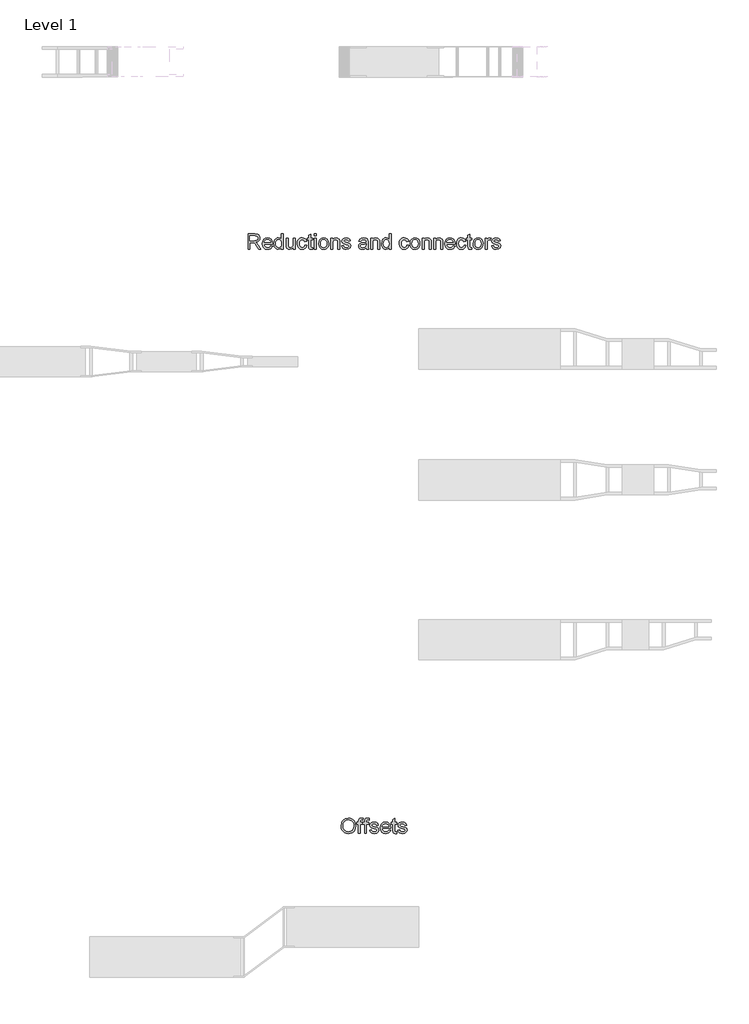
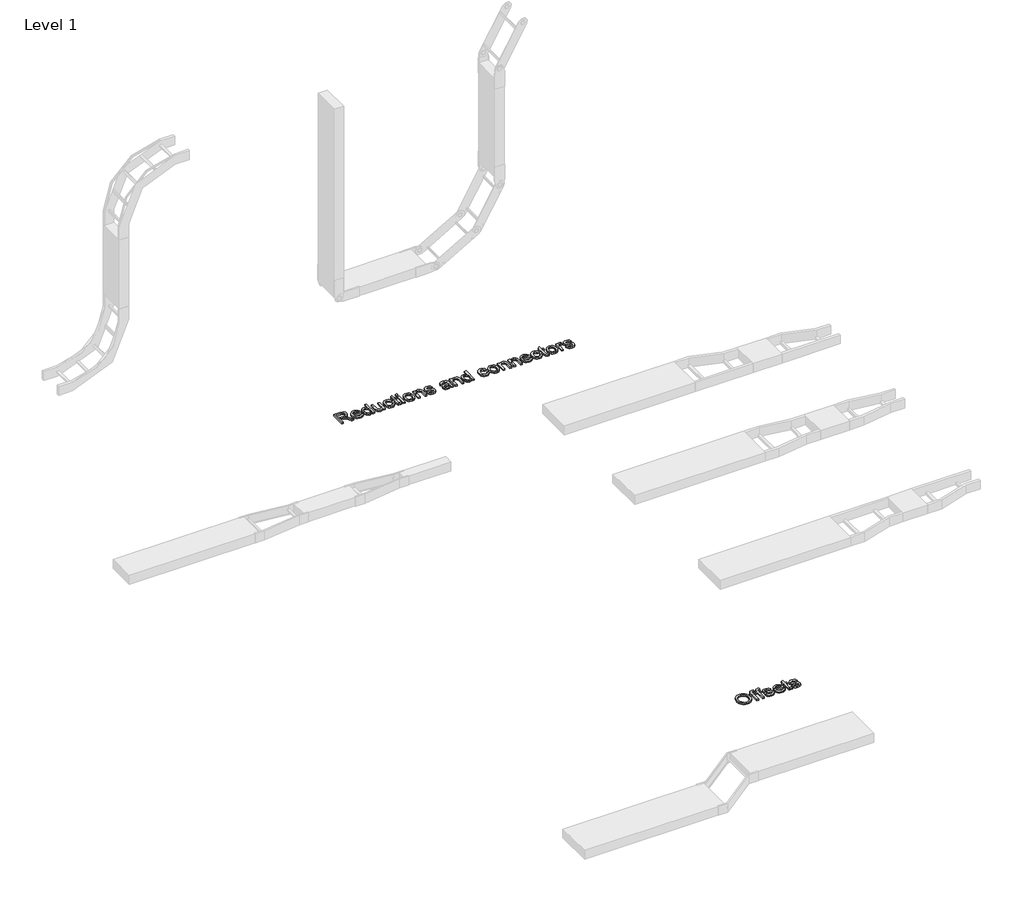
# One storey, part 71 of 106: 2 proxies.
"""IFC4 building model written with IfcOpenShell, lengths in millimetres."""

from ifc_helpers import new_model, si_unit, origin, origin_with_axes, place, context, project, spatial, polyline, outline, extrude, element, save

model = new_model("IFC4")

# Units and contexts
model_context = context("Model", 3, world=origin())
ifc_project = project(units=[si_unit("LENGTHUNIT", "METRE", prefix="MILLI")], contexts=[model_context])

# Site, building, storey
site = spatial("IfcSite", under=ifc_project)
building = spatial("IfcBuilding", under=site)
storey = spatial("IfcBuildingStorey", under=building, Name="Level 1", Elevation=0.0)

# Proxies
placement = place(None, origin())
element("IfcBuildingElementProxy", 1, Name="150mm Arial 2", ObjectType="150mm Arial 2", at=placement, inside=storey, context=model_context, shape_type="SweptSolid", body=[
    extrude(outline(polyline([(91968.5420892, 54347.8476348), (91968.5420892, 54498.5321), (92033.4732613, 54498.5321), (92063.6211908, 54494.467004), (92072.9010141, 54488.8384094), (92080.1023042, 54480.0828179), (92084.7238218, 54469.2257006), (92086.2643276, 54457.2925283), (92083.7121463, 54442.4484898), (92076.0556023, 54430.1428371), (92063.0647693, 54421.1205312), (92044.5097212, 54416.1265331), (92055.2150872, 54408.0699174), (92070.48219, 54388.6825362), (92095.6085303, 54347.8476348), (92073.7195516, 54347.8476348), (92054.1114412, 54379.0808162), (92039.9479844, 54399.7557843), (92029.9967765, 54409.5230513), (92021.0388499, 54413.1099007), (92010.1127546, 54413.7720883), (91987.3776473, 54413.7720883), (91987.3776473, 54347.8476348), (91968.5420892, 54347.8476348)]), holes=[polyline([(91987.3776473, 54432.6076465), (92029.536924, 54432.6076465), (92051.0396266, 54435.2747909), (92063.2533088, 54443.8096532), (92067.4287695, 54456.5935526), (92065.4376082, 54465.7814054), (92059.4641243, 54473.1850305), (92049.186421, 54478.068664), (92034.2826017, 54479.6965419), (91987.3776473, 54479.6965419), (91987.3776473, 54432.6076465)])]), origin_with_axes(), (0.0, 0.0, 1.0), 15.0),
    extrude(outline(polyline([(92194.3480578, 54380.8098615), (92212.815734, 54378.4554168), (92206.1616684, 54364.5402803), (92195.5436743, 54354.1384169), (92181.200875, 54347.6544967), (92163.3723938, 54345.49319), (92141.2718829, 54349.2225937), (92124.2665377, 54360.4108049), (92113.4232159, 54378.3312566), (92109.8087753, 54402.2573819), (92113.4600041, 54426.988249), (92124.4136905, 54445.4835163), (92141.1891095, 54457.0166168), (92162.305536, 54460.8609837), (92182.7643735, 54457.0258139), (92199.1121296, 54445.5203045), (92209.8312913, 54427.0618254), (92213.4043452, 54402.3677465), (92213.2939806, 54397.2909749), (92128.6443335, 54397.2909749), (92131.9046876, 54383.1918975), (92139.4784582, 54372.8268223), (92150.409152, 54366.4532667), (92163.7402758, 54364.3287482), (92182.207952, 54368.2650855), (92194.3480578, 54380.8098615)]), holes=[polyline([(92128.6443335, 54416.1265331), (92194.568787, 54416.1265331), (92192.0212042, 54426.0777411), (92187.0272061, 54433.1962577), (92176.0459285, 54439.8181336), (92162.2319596, 54442.0254255), (92149.5354323, 54440.2641905), (92139.0369998, 54434.9804853), (92131.7391407, 54426.7445272), (92128.6443335, 54416.1265331)])]), origin_with_axes(), (0.0, 0.0, 1.0), 15.0),
    extrude(outline(polyline([(92300.5188016, 54347.8476348), (92300.5188016, 54365.6163351), (92288.056799, 54350.5239763), (92270.8307246, 54345.49319), (92258.6538306, 54347.3142059), (92247.5070061, 54352.7772535), (92238.0708329, 54361.5006553), (92231.0258927, 54373.1027337), (92226.6388999, 54387.1144392), (92225.176569, 54403.0667223), (92230.5660402, 54433.0491049), (92237.2982807, 54444.9408904), (92246.7160598, 54453.6872848), (92258.1066061, 54459.067559), (92270.7571482, 54460.8609837), (92288.1211784, 54455.7290299), (92300.5188016, 54442.3933075), (92300.5188016, 54498.5321), (92319.3543598, 54498.5321), (92319.3543598, 54347.8476348), (92300.5188016, 54347.8476348)]), holes=[polyline([(92244.0121271, 54403.1402987), (92246.1366457, 54386.1027638), (92252.5102012, 54373.9856505), (92261.7716305, 54366.7429738), (92272.55977, 54364.3287482), (92283.343311, 54366.6326092), (92292.3702154, 54373.5441921), (92298.4816551, 54385.1922558), (92300.5188016, 54401.7055589), (92298.4448669, 54419.7593678), (92292.2230626, 54432.2765527), (92282.9662319, 54439.5882073), (92271.7872178, 54442.0254255), (92260.8887137, 54439.6847764), (92251.9583782, 54432.6628288), (92245.9986899, 54420.6008979), (92244.0121271, 54403.1402987)])]), origin_with_axes(), (0.0, 0.0, 1.0), 15.0),
    extrude(outline(polyline([(92418.2410401, 54347.8476348), (92418.2410401, 54366.8671339), (92403.4889721, 54350.836676), (92384.2487437, 54345.49319), (92366.5352256, 54349.2455864), (92354.3215434, 54358.6633654), (92348.711343, 54372.5325167), (92347.607697, 54390.0436996), (92347.607697, 54458.5065389), (92366.4432551, 54458.5065389), (92366.4432551, 54398.9096557), (92367.5836893, 54379.7062156), (92375.0332997, 54368.4306324), (92389.0679978, 54364.3287482), (92404.7949531, 54368.5226029), (92415.1876195, 54379.9453389), (92418.2410401, 54400.9330067), (92418.2410401, 54458.5065389), (92437.0765982, 54458.5065389), (92437.0765982, 54347.8476348), (92418.2410401, 54347.8476348)])), origin_with_axes(), (0.0, 0.0, 1.0), 15.0),
    extrude(outline(polyline([(92533.6088338, 54387.8731959), (92552.4443919, 54385.5187511), (92547.1928764, 54368.7663247), (92537.3244419, 54356.1065856), (92523.7679904, 54348.1465389), (92507.4524239, 54345.49319), (92487.4166507, 54349.1950026), (92471.7494763, 54360.3004403), (92461.6373199, 54378.3220596), (92458.2666011, 54402.7724167), (92459.7059394, 54419.5340401), (92464.0239544, 54434.0607803), (92471.2896238, 54445.7916175), (92481.5719255, 54454.1655314), (92493.8729797, 54459.1871206), (92507.1949065, 54460.8609837), (92523.1104013, 54458.5617212), (92535.8345198, 54451.6639338), (92544.9625918, 54440.5355035), (92550.0899471, 54425.5443122), (92531.254389, 54423.1898674), (92522.5171916, 54437.2981419), (92507.3420593, 54442.0254255), (92495.1697638, 54439.6985719), (92485.5082629, 54432.7180111), (92479.2036852, 54420.7066639), (92477.1021593, 54403.2874515), (92479.1576999, 54385.6337142), (92485.3243219, 54373.5809803), (92494.8110788, 54366.6418062), (92506.8270245, 54364.3287482), (92516.5804959, 54365.772685), (92524.5773308, 54370.1044955), (92530.3944648, 54377.4345442), (92533.6088338, 54387.8731959)])), origin_with_axes(), (0.0, 0.0, 1.0), 15.0),
    extrude(outline(polyline([(92608.9510664, 54363.556196), (92611.3055111, 54347.2958118), (92597.2156307, 54345.49319), (92581.4334931, 54348.620187), (92573.5608184, 54356.8239555), (92571.2799501, 54378.1978994), (92571.2799501, 54439.6709808), (92557.1532814, 54439.6709808), (92557.1532814, 54458.5065389), (92571.2799501, 54458.5065389), (92571.2799501, 54485.3987128), (92590.1155082, 54496.4719608), (92590.1155082, 54458.5065389), (92608.9510664, 54458.5065389), (92608.9510664, 54439.6709808), (92590.1155082, 54439.6709808), (92590.1155082, 54378.7497224), (92591.1087896, 54369.0376377), (92594.3277571, 54365.597941), (92600.7472979, 54364.3287482), (92608.9510664, 54363.556196)])), origin_with_axes(), (0.0, 0.0, 1.0), 15.0),
    extrude(outline(polyline([(92627.7866245, 54479.6965419), (92627.7866245, 54498.5321), (92646.6221827, 54498.5321), (92646.6221827, 54479.6965419), (92627.7866245, 54479.6965419)])), origin_with_axes(), (0.0, 0.0, 1.0), 15.0),
    extrude(outline(polyline([(92627.7866245, 54347.8476348), (92627.7866245, 54458.5065389), (92646.6221827, 54458.5065389), (92646.6221827, 54347.8476348), (92627.7866245, 54347.8476348)])), origin_with_axes(), (0.0, 0.0, 1.0), 15.0),
    extrude(outline(polyline([(92670.1666304, 54403.1770869), (92674.2409235, 54429.8577286), (92686.4638027, 54448.6105133), (92701.5653587, 54457.7983661), (92719.6467587, 54460.8609837), (92739.4342115, 54457.13158), (92755.2393417, 54445.9433688), (92765.5998184, 54428.179267), (92769.0533107, 54404.7221912), (92767.5266004, 54385.693495), (92762.9464695, 54371.2081415), (92755.4462754, 54360.3602211), (92745.1593751, 54352.2438246), (92732.9410943, 54347.1808487), (92719.6467587, 54345.49319), (92699.6201826, 54349.2087982), (92683.8334465, 54360.3556226), (92673.5833344, 54378.492205), (92670.1666304, 54403.1770869)]), holes=[polyline([(92689.0021885, 54403.2138751), (92691.1818893, 54386.1671431), (92697.7209918, 54374.0224387), (92707.5618352, 54366.7521708), (92719.6467587, 54364.3287482), (92731.6765, 54366.7659664), (92741.4989492, 54374.077621), (92748.0380517, 54386.3832738), (92750.2177525, 54403.8024862), (92748.0242561, 54420.3525775), (92741.4437669, 54432.331735), (92731.6075221, 54439.6020029), (92719.6467587, 54442.0254255), (92707.5618352, 54439.6112), (92697.7209918, 54432.3685232), (92691.1818893, 54420.25141), (92689.0021885, 54403.2138751)])]), origin_with_axes(), (0.0, 0.0, 1.0), 15.0),
    extrude(outline(polyline([(92790.2433136, 54347.8476348), (92790.2433136, 54458.5065389), (92809.0788717, 54458.5065389), (92809.0788717, 54443.0554951), (92823.4814519, 54456.4096116), (92843.1447445, 54460.8609837), (92860.931839, 54457.2741342), (92873.0719448, 54447.8563552), (92878.7189334, 54434.0055981), (92879.7122148, 54415.7954393), (92879.7122148, 54347.8476348), (92860.8766567, 54347.8476348), (92860.8766567, 54413.2570535), (92858.7061529, 54429.9221079), (92851.0358133, 54438.7328817), (92838.1047612, 54442.0254255), (92827.0728998, 54440.1768185), (92817.6689163, 54434.6309974), (92811.2263829, 54423.9164343), (92809.0788717, 54406.5616012), (92809.0788717, 54347.8476348), (92790.2433136, 54347.8476348)])), origin_with_axes(), (0.0, 0.0, 1.0), 15.0),
    extrude(outline(polyline([(92898.547773, 54380.8098615), (92917.3833311, 54383.1643063), (92920.3539782, 54375.1076906), (92926.1021344, 54369.1847905), (92946.0781267, 54364.3287482), (92965.2815669, 54368.7801203), (92971.5355608, 54379.227969), (92969.9628653, 54384.028829), (92965.2447787, 54387.6892549), (92945.8573975, 54393.060332), (92917.4936957, 54402.275776), (92905.1144666, 54413.0363243), (92900.9022177, 54428.2298507), (92904.2867321, 54442.2645488), (92913.5205702, 54452.988309), (92925.4951291, 54458.5617212), (92941.700331, 54460.8609837), (92964.6193793, 54457.1637696), (92979.1875063, 54447.1573794), (92985.6622294, 54430.2532017), (92966.8266713, 54427.8987569), (92959.7449429, 54438.2914233), (92943.171859, 54442.0254255), (92925.1456412, 54438.4569702), (92919.7377759, 54430.1428371), (92921.9818561, 54424.6613954), (92929.0084022, 54420.5043288), (92945.2319982, 54416.4944151), (92972.8783301, 54407.628459), (92985.7174117, 54397.5852805), (92990.371119, 54381.2145317), (92984.9080713, 54363.188314), (92969.1443278, 54350.1101091), (92945.8206093, 54345.49319), (92926.8287013, 54347.7188761), (92912.9687472, 54354.3959343), (92903.716515, 54365.4507882), (92898.547773, 54380.8098615)])), origin_with_axes(), (0.0, 0.0, 1.0), 15.0),
    extrude(outline(polyline([(93141.0555842, 54361.9743034), (93122.7902431, 54349.2087982), (93102.6119157, 54345.49319), (93086.8711648, 54347.7280731), (93075.2598894, 54354.4327225), (93068.099986, 54364.6138567), (93065.7133516, 54377.2781944), (93069.3185951, 54392.1774152), (93078.7915565, 54402.9931459), (93091.980126, 54409.1735634), (93108.2772984, 54412.0062547), (93140.9452196, 54418.4809779), (93141.0555842, 54422.6748326), (93139.7588002, 54431.0809362), (93135.8684481, 54436.580772), (93127.1680389, 54440.6642622), (93115.0463271, 54442.0254255), (93095.9900398, 54438.4017879), (93086.9033545, 54425.5443122), (93068.0677963, 54427.8987569), (93076.2163825, 54446.2928567), (93092.6239195, 54457.0717991), (93117.4743483, 54460.8609837), (93140.3014261, 54457.5132575), (93153.19569, 54449.107154), (93158.9714374, 54436.3232546), (93159.8911423, 54419.8421412), (93159.8911423, 54396.4080581), (93160.8476355, 54363.6849547), (93164.6000319, 54347.8476348), (93145.7644737, 54347.8476348), (93141.0555842, 54361.9743034)]), holes=[polyline([(93141.0555842, 54399.6454197), (93110.6685314, 54393.8696724), (93094.4633295, 54390.8162518), (93087.1240837, 54385.8498449), (93084.5489097, 54378.6025696), (93090.1591102, 54368.4122383), (93106.6218294, 54364.3287482), (93125.6781168, 54368.8353026), (93137.9653754, 54379.7430038), (93140.9452196, 54394.3111308), (93141.0555842, 54399.6454197)])]), origin_with_axes(), (0.0, 0.0, 1.0), 15.0),
    extrude(outline(polyline([(93185.7900348, 54347.8476348), (93185.7900348, 54458.5065389), (93204.625593, 54458.5065389), (93204.625593, 54443.0554951), (93219.0281731, 54456.4096116), (93238.6914657, 54460.8609837), (93256.4785602, 54457.2741342), (93268.618666, 54447.8563552), (93274.2656546, 54434.0055981), (93275.258936, 54415.7954393), (93275.258936, 54347.8476348), (93256.4233779, 54347.8476348), (93256.4233779, 54413.2570535), (93254.2528741, 54429.9221079), (93246.5825345, 54438.7328817), (93233.6514824, 54442.0254255), (93222.619621, 54440.1768185), (93213.2156375, 54434.6309974), (93206.7731041, 54423.9164343), (93204.625593, 54406.5616012), (93204.625593, 54347.8476348), (93185.7900348, 54347.8476348)])), origin_with_axes(), (0.0, 0.0, 1.0), 15.0),
    extrude(outline(polyline([(93369.4367268, 54347.8476348), (93369.4367268, 54365.6163351), (93356.9747242, 54350.5239763), (93339.7486498, 54345.49319), (93327.5717557, 54347.3142059), (93316.4249313, 54352.7772535), (93306.9887581, 54361.5006553), (93299.9438179, 54373.1027337), (93295.5568251, 54387.1144392), (93294.0944942, 54403.0667223), (93299.4839654, 54433.0491049), (93306.2162059, 54444.9408904), (93315.633985, 54453.6872848), (93327.0245313, 54459.067559), (93339.6750734, 54460.8609837), (93357.0391036, 54455.7290299), (93369.4367268, 54442.3933075), (93369.4367268, 54498.5321), (93388.2722849, 54498.5321), (93388.2722849, 54347.8476348), (93369.4367268, 54347.8476348)]), holes=[polyline([(93312.9300523, 54403.1402987), (93315.0545709, 54386.1027638), (93321.4281264, 54373.9856505), (93330.6895557, 54366.7429738), (93341.4776952, 54364.3287482), (93352.2612361, 54366.6326092), (93361.2881406, 54373.5441921), (93367.3995802, 54385.1922558), (93369.4367268, 54401.7055589), (93367.362792, 54419.7593678), (93361.1409878, 54432.2765527), (93351.8841571, 54439.5882073), (93340.705143, 54442.0254255), (93329.8066389, 54439.6847764), (93320.8763034, 54432.6628288), (93314.9166151, 54420.6008979), (93312.9300523, 54403.1402987)])]), origin_with_axes(), (0.0, 0.0, 1.0), 15.0),
    extrude(outline(polyline([(93546.0200845, 54387.8731959), (93564.8556426, 54385.5187511), (93559.6041272, 54368.7663247), (93549.7356926, 54356.1065856), (93536.1792411, 54348.1465389), (93519.8636746, 54345.49319), (93499.8279015, 54349.1950026), (93484.160727, 54360.3004403), (93474.0485706, 54378.3220596), (93470.6778519, 54402.7724167), (93472.1171902, 54419.5340401), (93476.4352051, 54434.0607803), (93483.7008745, 54445.7916175), (93493.9831763, 54454.1655314), (93506.2842305, 54459.1871206), (93519.6061572, 54460.8609837), (93535.521652, 54458.5617212), (93548.2457706, 54451.6639338), (93557.3738426, 54440.5355035), (93562.5011979, 54425.5443122), (93543.6656397, 54423.1898674), (93534.9284423, 54437.2981419), (93519.75331, 54442.0254255), (93507.5810145, 54439.6985719), (93497.9195136, 54432.7180111), (93491.6149359, 54420.7066639), (93489.51341, 54403.2874515), (93491.5689507, 54385.6337142), (93497.7355726, 54373.5809803), (93507.2223296, 54366.6418062), (93519.2382752, 54364.3287482), (93528.9917466, 54365.772685), (93536.9885815, 54370.1044955), (93542.8057155, 54377.4345442), (93546.0200845, 54387.8731959)])), origin_with_axes(), (0.0, 0.0, 1.0), 15.0),
    extrude(outline(polyline([(93576.6278665, 54403.1770869), (93580.7021596, 54429.8577286), (93592.9250389, 54448.6105133), (93608.0265948, 54457.7983661), (93626.1079948, 54460.8609837), (93645.8954476, 54457.13158), (93661.7005779, 54445.9433688), (93672.0610546, 54428.179267), (93675.5145468, 54404.7221912), (93673.9878365, 54385.693495), (93669.4077057, 54371.2081415), (93661.9075115, 54360.3602211), (93651.6206112, 54352.2438246), (93639.4023304, 54347.1808487), (93626.1079948, 54345.49319), (93606.0814187, 54349.2087982), (93590.2946826, 54360.3556226), (93580.0445705, 54378.492205), (93576.6278665, 54403.1770869)]), holes=[polyline([(93595.4634246, 54403.2138751), (93597.6431255, 54386.1671431), (93604.1822279, 54374.0224387), (93614.0230713, 54366.7521708), (93626.1079948, 54364.3287482), (93638.1377361, 54366.7659664), (93647.9601853, 54374.077621), (93654.4992878, 54386.3832738), (93656.6789886, 54403.8024862), (93654.4854922, 54420.3525775), (93647.905003, 54432.331735), (93638.0687582, 54439.6020029), (93626.1079948, 54442.0254255), (93614.0230713, 54439.6112), (93604.1822279, 54432.3685232), (93597.6431255, 54420.25141), (93595.4634246, 54403.2138751)])]), origin_with_axes(), (0.0, 0.0, 1.0), 15.0),
    extrude(outline(polyline([(93696.7045497, 54347.8476348), (93696.7045497, 54458.5065389), (93715.5401079, 54458.5065389), (93715.5401079, 54443.0554951), (93729.942688, 54456.4096116), (93749.6059806, 54460.8609837), (93767.3930751, 54457.2741342), (93779.5331809, 54447.8563552), (93785.1801695, 54434.0055981), (93786.1734509, 54415.7954393), (93786.1734509, 54347.8476348), (93767.3378928, 54347.8476348), (93767.3378928, 54413.2570535), (93765.167389, 54429.9221079), (93757.4970494, 54438.7328817), (93744.5659973, 54442.0254255), (93733.5341359, 54440.1768185), (93724.1301524, 54434.6309974), (93717.687619, 54423.9164343), (93715.5401079, 54406.5616012), (93715.5401079, 54347.8476348), (93696.7045497, 54347.8476348)])), origin_with_axes(), (0.0, 0.0, 1.0), 15.0),
    extrude(outline(polyline([(93812.0723434, 54347.8476348), (93812.0723434, 54458.5065389), (93830.9079015, 54458.5065389), (93830.9079015, 54443.0554951), (93845.3104817, 54456.4096116), (93864.9737743, 54460.8609837), (93882.7608688, 54457.2741342), (93894.9009746, 54447.8563552), (93900.5479632, 54434.0055981), (93901.5412446, 54415.7954393), (93901.5412446, 54347.8476348), (93882.7056865, 54347.8476348), (93882.7056865, 54413.2570535), (93880.5351827, 54429.9221079), (93872.8648431, 54438.7328817), (93859.933791, 54442.0254255), (93848.9019296, 54440.1768185), (93839.4979461, 54434.6309974), (93833.0554127, 54423.9164343), (93830.9079015, 54406.5616012), (93830.9079015, 54347.8476348), (93812.0723434, 54347.8476348)])), origin_with_axes(), (0.0, 0.0, 1.0), 15.0),
    extrude(outline(polyline([(94004.9160853, 54380.8098615), (94023.3837614, 54378.4554168), (94016.7296958, 54364.5402803), (94006.1117017, 54354.1384169), (93991.7689025, 54347.6544967), (93973.9404213, 54345.49319), (93951.8399104, 54349.2225937), (93934.8345652, 54360.4108049), (93923.9912434, 54378.3312566), (93920.3768028, 54402.2573819), (93924.0280316, 54426.988249), (93934.981718, 54445.4835163), (93951.757137, 54457.0166168), (93972.8735635, 54460.8609837), (93993.3324009, 54457.0258139), (94009.6801571, 54445.5203045), (94020.3993187, 54427.0618254), (94023.9723726, 54402.3677465), (94023.862008, 54397.2909749), (93939.2123609, 54397.2909749), (93942.4727151, 54383.1918975), (93950.0464857, 54372.8268223), (93960.9771795, 54366.4532667), (93974.3083033, 54364.3287482), (93992.7759794, 54368.2650855), (94004.9160853, 54380.8098615)]), holes=[polyline([(93939.2123609, 54416.1265331), (94005.1368145, 54416.1265331), (94002.5892316, 54426.0777411), (93997.5952336, 54433.1962577), (93986.613956, 54439.8181336), (93972.7999871, 54442.0254255), (93960.1034597, 54440.2641905), (93949.6050273, 54434.9804853), (93942.3071682, 54426.7445272), (93939.2123609, 54416.1265331)])]), origin_with_axes(), (0.0, 0.0, 1.0), 15.0),
    extrude(outline(polyline([(94113.4412738, 54387.8731959), (94132.276832, 54385.5187511), (94127.0253165, 54368.7663247), (94117.156882, 54356.1065856), (94103.6004305, 54348.1465389), (94087.284864, 54345.49319), (94067.2490908, 54349.1950026), (94051.5819164, 54360.3004403), (94041.46976, 54378.3220596), (94038.0990412, 54402.7724167), (94039.5383795, 54419.5340401), (94043.8563945, 54434.0607803), (94051.1220639, 54445.7916175), (94061.4043656, 54454.1655314), (94073.7054198, 54459.1871206), (94087.0273466, 54460.8609837), (94102.9428414, 54458.5617212), (94115.6669599, 54451.6639338), (94124.7950319, 54440.5355035), (94129.9223872, 54425.5443122), (94111.0868291, 54423.1898674), (94102.3496317, 54437.2981419), (94087.1744994, 54442.0254255), (94075.0022039, 54439.6985719), (94065.340703, 54432.7180111), (94059.0361253, 54420.7066639), (94056.9345994, 54403.2874515), (94058.99014, 54385.6337142), (94065.156762, 54373.5809803), (94074.6435189, 54366.6418062), (94086.6594646, 54364.3287482), (94096.412936, 54365.772685), (94104.4097709, 54370.1044955), (94110.2269049, 54377.4345442), (94113.4412738, 54387.8731959)])), origin_with_axes(), (0.0, 0.0, 1.0), 15.0),
    extrude(outline(polyline([(94188.7835065, 54363.556196), (94191.1379512, 54347.2958118), (94177.0480708, 54345.49319), (94161.2659332, 54348.620187), (94153.3932585, 54356.8239555), (94151.1123901, 54378.1978994), (94151.1123901, 54439.6709808), (94136.9857215, 54439.6709808), (94136.9857215, 54458.5065389), (94151.1123901, 54458.5065389), (94151.1123901, 54485.3987128), (94169.9479483, 54496.4719608), (94169.9479483, 54458.5065389), (94188.7835065, 54458.5065389), (94188.7835065, 54439.6709808), (94169.9479483, 54439.6709808), (94169.9479483, 54378.7497224), (94170.9412297, 54369.0376377), (94174.1601971, 54365.597941), (94180.579738, 54364.3287482), (94188.7835065, 54363.556196)])), origin_with_axes(), (0.0, 0.0, 1.0), 15.0),
    extrude(outline(polyline([(94202.9101751, 54403.1770869), (94206.9844682, 54429.8577286), (94219.2073475, 54448.6105133), (94234.3089034, 54457.7983661), (94252.3903034, 54460.8609837), (94272.1777562, 54457.13158), (94287.9828865, 54445.9433688), (94298.3433631, 54428.179267), (94301.7968554, 54404.7221912), (94300.2701451, 54385.693495), (94295.6900143, 54371.2081415), (94288.1898201, 54360.3602211), (94277.9029198, 54352.2438246), (94265.684639, 54347.1808487), (94252.3903034, 54345.49319), (94232.3637273, 54349.2087982), (94216.5769912, 54360.3556226), (94206.3268791, 54378.492205), (94202.9101751, 54403.1770869)]), holes=[polyline([(94221.7457332, 54403.2138751), (94223.925434, 54386.1671431), (94230.4645365, 54374.0224387), (94240.3053799, 54366.7521708), (94252.3903034, 54364.3287482), (94264.4200447, 54366.7659664), (94274.2424939, 54374.077621), (94280.7815964, 54386.3832738), (94282.9612972, 54403.8024862), (94280.7678008, 54420.3525775), (94274.1873116, 54432.331735), (94264.3510668, 54439.6020029), (94252.3903034, 54442.0254255), (94240.3053799, 54439.6112), (94230.4645365, 54432.3685232), (94223.925434, 54420.25141), (94221.7457332, 54403.2138751)])]), origin_with_axes(), (0.0, 0.0, 1.0), 15.0),
    extrude(outline(polyline([(94322.9868583, 54347.8476348), (94322.9868583, 54458.5065389), (94339.4679717, 54458.5065389), (94339.4679717, 54442.1357901), (94351.1666191, 54457.2189519), (94362.938843, 54460.8609837), (94381.8479775, 54455.0484482), (94375.5571954, 54438.1626646), (94362.3134436, 54442.0254255), (94351.6632598, 54438.3098174), (94344.875837, 54428.0091215), (94341.8224164, 54406.0097782), (94341.8224164, 54347.8476348), (94322.9868583, 54347.8476348)])), origin_with_axes(), (0.0, 0.0, 1.0), 15.0),
    extrude(outline(polyline([(94386.5568671, 54380.8098615), (94405.3924252, 54383.1643063), (94408.3630723, 54375.1076906), (94414.1112285, 54369.1847905), (94434.0872208, 54364.3287482), (94453.290661, 54368.7801203), (94459.5446549, 54379.227969), (94457.9719594, 54384.028829), (94453.2538728, 54387.6892549), (94433.8664916, 54393.060332), (94405.5027898, 54402.275776), (94393.1235607, 54413.0363243), (94388.9113118, 54428.2298507), (94392.2958262, 54442.2645488), (94401.5296643, 54452.988309), (94413.5042232, 54458.5617212), (94429.7094251, 54460.8609837), (94452.6284734, 54457.1637696), (94467.1966004, 54447.1573794), (94473.6713235, 54430.2532017), (94454.8357654, 54427.8987569), (94447.754037, 54438.2914233), (94431.1809531, 54442.0254255), (94413.1547353, 54438.4569702), (94407.74687, 54430.1428371), (94409.9909502, 54424.6613954), (94417.0174963, 54420.5043288), (94433.2410922, 54416.4944151), (94460.8874242, 54407.628459), (94473.7265058, 54397.5852805), (94478.3802131, 54381.2145317), (94472.9171654, 54363.188314), (94457.1534219, 54350.1101091), (94433.8297034, 54345.49319), (94414.8377954, 54347.7188761), (94400.9778413, 54354.3959343), (94391.7256091, 54365.4507882), (94386.5568671, 54380.8098615)])), origin_with_axes(), (0.0, 0.0, 1.0), 15.0),
])
element("IfcBuildingElementProxy", 2, Name="150mm Arial 2", ObjectType="150mm Arial 2", at=placement, inside=storey, context=model_context, shape_type="SweptSolid", body=[
    extrude(outline(polyline([(92892.661661, 48621.2033046), (92897.6832503, 48654.5242163), (92903.9602368, 48668.1427479), (92912.748018, 48679.7333301), (92935.7498397, 48695.5982411), (92964.5825911, 48700.8865448), (92984.3470513, 48698.4033413), (93002.0697664, 48690.9537309), (93016.7850462, 48679.0619454), (93027.5272005, 48663.2522167), (93034.0938941, 48644.2878998), (93036.282792, 48622.93235), (93033.978931, 48601.2916916), (93027.067348, 48582.0606603), (93015.9297206, 48566.2233404), (93000.9477263, 48554.7638163), (92983.3767625, 48547.8108466), (92964.4722265, 48545.49319), (92944.4042637, 48548.0545684), (92926.580381, 48555.7387036), (92911.9018894, 48567.8512183), (92901.2700997, 48583.6977352), (92894.8137707, 48601.9308866), (92892.661661, 48621.2033046)]), holes=[polyline([(92911.4972192, 48621.0193636), (92915.2634111, 48597.4473248), (92926.5619869, 48579.4854864), (92943.5443395, 48568.1179327), (92964.3618619, 48564.3287482), (92985.482887, 48568.1547209), (93002.4928307, 48579.6326392), (93013.708633, 48598.1463006), (93017.4472338, 48623.0795028), (93015.8469471, 48639.7537542), (93011.0460871, 48654.1655314), (93003.1688139, 48665.9515508), (92992.3392876, 48674.748529), (92979.2748783, 48680.2253722), (92964.6929557, 48682.0509866), (92944.4318548, 48678.533115), (92927.2057804, 48667.9795003), (92915.4243595, 48649.203723), (92911.4972192, 48621.0193636)])]), origin_with_axes(), (0.0, 0.0, 1.0), 15.0),
    extrude(outline(polyline([(93125.7516932, 48547.8476348), (93125.7516932, 48639.6709808), (93109.2705798, 48639.6709808), (93109.2705798, 48658.5065389), (93125.7516932, 48658.5065389), (93125.7516932, 48669.6533634), (93127.738256, 48685.3619246), (93137.3767642, 48696.5823254), (93156.3594752, 48700.8865448), (93173.5395644, 48698.8264056), (93170.7804494, 48681.1680698), (93159.9279305, 48682.0509866), (93148.0637362, 48678.9239897), (93144.5872513, 48667.2621304), (93144.5872513, 48658.5065389), (93165.7772543, 48658.5065389), (93165.7772543, 48639.6709808), (93144.5872513, 48639.6709808), (93144.5872513, 48547.8476348), (93125.7516932, 48547.8476348)])), origin_with_axes(), (0.0, 0.0, 1.0), 15.0),
    extrude(outline(polyline([(93064.5361292, 48547.8476348), (93064.5361292, 48639.6709808), (93048.0550158, 48639.6709808), (93048.0550158, 48658.5065389), (93064.5361292, 48658.5065389), (93064.5361292, 48669.6533634), (93066.522692, 48685.3619246), (93076.1612002, 48696.5823254), (93095.1439112, 48700.8865448), (93112.3240004, 48698.8264056), (93109.5648854, 48681.1680698), (93098.7123665, 48682.0509866), (93086.8481722, 48678.9239897), (93083.3716873, 48667.2621304), (93083.3716873, 48658.5065389), (93104.5616903, 48658.5065389), (93104.5616903, 48639.6709808), (93083.3716873, 48639.6709808), (93083.3716873, 48547.8476348), (93064.5361292, 48547.8476348)])), origin_with_axes(), (0.0, 0.0, 1.0), 15.0),
    extrude(outline(polyline([(93175.1950333, 48580.8098615), (93194.0305915, 48583.1643063), (93197.0012386, 48575.1076906), (93202.7493948, 48569.1847905), (93222.7253871, 48564.3287482), (93241.9288273, 48568.7801203), (93248.1828212, 48579.227969), (93246.6101257, 48584.028829), (93241.8920391, 48587.6892549), (93222.5046579, 48593.060332), (93194.1409561, 48602.275776), (93181.761727, 48613.0363243), (93177.5494781, 48628.2298507), (93180.9339925, 48642.2645488), (93190.1678305, 48652.988309), (93202.1423895, 48658.5617212), (93218.3475914, 48660.8609837), (93241.2666397, 48657.1637696), (93255.8347667, 48647.1573794), (93262.3094898, 48630.2532017), (93243.4739316, 48627.8987569), (93236.3922032, 48638.2914233), (93219.8191194, 48642.0254255), (93201.7929016, 48638.4569702), (93196.3850363, 48630.1428371), (93198.6291164, 48624.6613954), (93205.6556625, 48620.5043288), (93221.8792585, 48616.4944151), (93249.5255905, 48607.628459), (93262.3646721, 48597.5852805), (93267.0183793, 48581.2145317), (93261.5553317, 48563.188314), (93245.7915882, 48550.1101091), (93222.4678697, 48545.49319), (93203.4759617, 48547.7188761), (93189.6160076, 48554.3959343), (93180.3637754, 48565.4507882), (93175.1950333, 48580.8098615)])), origin_with_axes(), (0.0, 0.0, 1.0), 15.0),
    extrude(outline(polyline([(93365.6843304, 48580.8098615), (93384.1520066, 48578.4554168), (93377.497941, 48564.5402803), (93366.8799469, 48554.1384169), (93352.5371476, 48547.6544967), (93334.7086664, 48545.49319), (93312.6081556, 48549.2225937), (93295.6028104, 48560.4108049), (93284.7594886, 48578.3312566), (93281.145048, 48602.2573819), (93284.7962768, 48626.988249), (93295.7499632, 48645.4835163), (93312.5253821, 48657.0166168), (93333.6418087, 48660.8609837), (93354.1006461, 48657.0258139), (93370.4484023, 48645.5203045), (93381.1675639, 48627.0618254), (93384.7406178, 48602.3677465), (93384.6302532, 48597.2909749), (93299.9806061, 48597.2909749), (93303.2409603, 48583.1918975), (93310.8147309, 48572.8268223), (93321.7454246, 48566.4532667), (93335.0765484, 48564.3287482), (93353.5442246, 48568.2650855), (93365.6843304, 48580.8098615)]), holes=[polyline([(93299.9806061, 48616.1265331), (93365.9050596, 48616.1265331), (93363.3574768, 48626.0777411), (93358.3634787, 48633.1962577), (93347.3822012, 48639.8181336), (93333.5682323, 48642.0254255), (93320.8717049, 48640.2641905), (93310.3732725, 48634.9804853), (93303.0754134, 48626.7445272), (93299.9806061, 48616.1265331)])]), origin_with_axes(), (0.0, 0.0, 1.0), 15.0),
    extrude(outline(polyline([(93443.601737, 48563.556196), (93445.9561818, 48547.2958118), (93431.8663014, 48545.49319), (93416.0841638, 48548.620187), (93408.2114891, 48556.8239555), (93405.9306207, 48578.1978994), (93405.9306207, 48639.6709808), (93391.8039521, 48639.6709808), (93391.8039521, 48658.5065389), (93405.9306207, 48658.5065389), (93405.9306207, 48685.3987128), (93424.7661789, 48696.4719608), (93424.7661789, 48658.5065389), (93443.601737, 48658.5065389), (93443.601737, 48639.6709808), (93424.7661789, 48639.6709808), (93424.7661789, 48578.7497224), (93425.7594603, 48569.0376377), (93428.9784277, 48565.597941), (93435.3979685, 48564.3287482), (93443.601737, 48563.556196)])), origin_with_axes(), (0.0, 0.0, 1.0), 15.0),
    extrude(outline(polyline([(93455.3739609, 48580.8098615), (93474.209519, 48583.1643063), (93477.1801661, 48575.1076906), (93482.9283223, 48569.1847905), (93502.9043146, 48564.3287482), (93522.1077548, 48568.7801203), (93528.3617487, 48579.227969), (93526.7890532, 48584.028829), (93522.0709666, 48587.6892549), (93502.6835854, 48593.060332), (93474.3198836, 48602.275776), (93461.9406545, 48613.0363243), (93457.7284056, 48628.2298507), (93461.11292, 48642.2645488), (93470.3467581, 48652.988309), (93482.321317, 48658.5617212), (93498.5265189, 48660.8609837), (93521.4455672, 48657.1637696), (93536.0136942, 48647.1573794), (93542.4884173, 48630.2532017), (93523.6528592, 48627.8987569), (93516.5711308, 48638.2914233), (93499.9980469, 48642.0254255), (93481.9718291, 48638.4569702), (93476.5639638, 48630.1428371), (93478.808044, 48624.6613954), (93485.8345901, 48620.5043288), (93502.0581861, 48616.4944151), (93529.704518, 48607.628459), (93542.5435996, 48597.5852805), (93547.1973069, 48581.2145317), (93541.7342592, 48563.188314), (93525.9705157, 48550.1101091), (93502.6467972, 48545.49319), (93483.6548892, 48547.7188761), (93469.7949351, 48554.3959343), (93460.5427029, 48565.4507882), (93455.3739609, 48580.8098615)])), origin_with_axes(), (0.0, 0.0, 1.0), 15.0),
])

save(model, "model.ifc")
